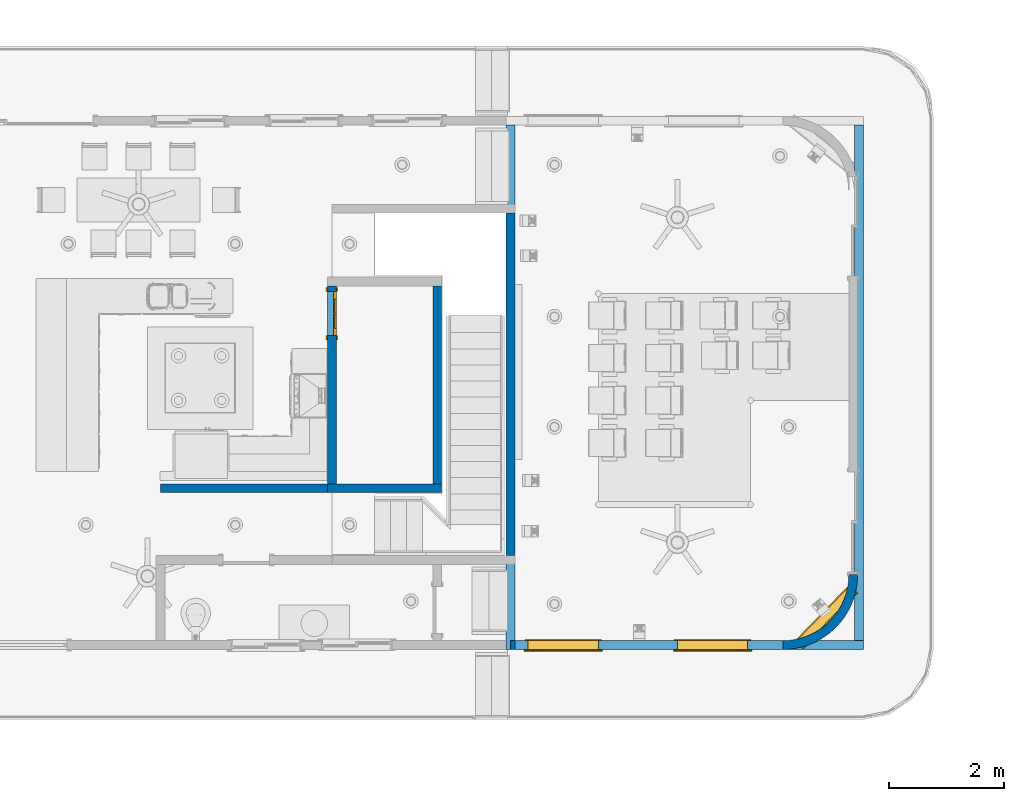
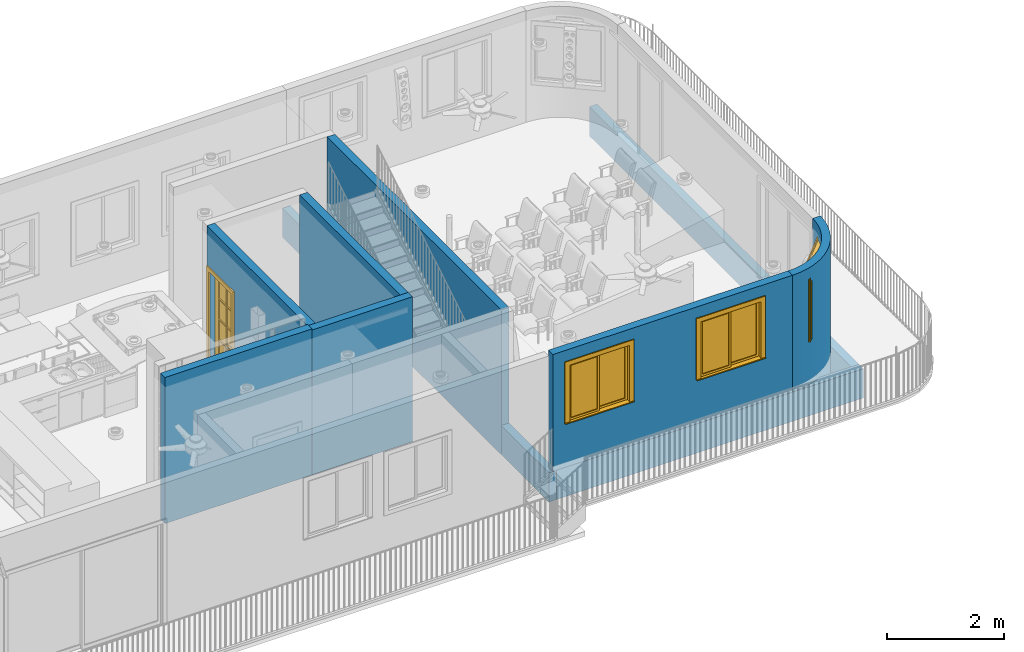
# One storey, part 3 of 21: 10 walls, 3 windows, 1 door, 4 openings.
"""IFC2X3 building model written with IfcOpenShell, lengths in feet."""

import ifcopenshell
import ifcopenshell.guid

model = None  # the IFC model being written
_history = None  # IfcOwnerHistory: only IFC2X3 demands one
_inside = {}  # id of a spatial element -> (the spatial element, [elements in it])
_under = {}  # id of a project, library or spatial element -> (it, [spatial elements below it])
_declared = {}  # id of a project -> (the project, [libraries it declares])
_typed = {}  # id of a type object -> (the type object, [elements of that type])
_made_of = {}  # id of a material, layer set ... -> (it, [elements and type objects made of it])


def new_model(schema):
    """Start an empty IFC model of exactly this schema.

    Asked for "IFC4X3", IfcOpenShell would pick the latest addendum, in which some entities
    have other attributes; the version numbers below select the first issue.
    IFC2X3 requires an IfcOwnerHistory on every rooted entity: one is made here for all.
    """
    global model, _history
    if schema == "IFC4X3":
        model = ifcopenshell.file(schema_version=(4, 3, 0, 0))
    else:
        model = ifcopenshell.file(schema=schema)
    _inside.clear()
    _under.clear()
    _declared.clear()
    _typed.clear()
    _made_of.clear()
    _history = None
    if model.schema == "IFC2X3":
        org = make("IfcOrganization", Name="unknown")
        user = make(
            "IfcPersonAndOrganization",
            ThePerson=make("IfcPerson", FamilyName="unknown"),
            TheOrganization=org,
        )
        app = make(
            "IfcApplication",
            ApplicationDeveloper=org,
            Version="unknown",
            ApplicationFullName="unknown",
            ApplicationIdentifier="unknown",
        )
        _history = make(
            "IfcOwnerHistory",
            OwningUser=user,
            OwningApplication=app,
            ChangeAction="ADDED",
            CreationDate=0,
        )
    return model


def make(cls, **values):
    """One entity of the class cls with the attributes given. An attribute that is None is left unset."""
    return model.create_entity(
        cls, **{name: value for name, value in values.items() if value is not None}
    )


def entity(cls, *values):
    """Any entity or typed value of the class cls, its attributes in the order of the schema. None: left unset."""
    e = model.create_entity(cls)
    for i, value in enumerate(values):
        if value is not None:
            e[i] = value
    return e


def rooted(cls, **values):
    """An entity with a GlobalId (a new one), such as an element, a storey or a relation."""
    return make(cls, GlobalId=ifcopenshell.guid.new(), OwnerHistory=_history, **values)


def si_unit(unit_type, name, prefix=None):
    """IfcSIUnit, for example si_unit("LENGTHUNIT", "METRE", prefix="MILLI")."""
    return make("IfcSIUnit", UnitType=unit_type, Prefix=prefix, Name=name)


def converted_unit(unit_type, name, factor, base, dimensions=None, offset=None):
    """IfcConversionBasedUnit, such as the inch: factor (a typed value) times the base unit."""
    return make(
        "IfcConversionBasedUnit"
        if offset is None
        else "IfcConversionBasedUnitWithOffset",
        ConversionOffset=offset,
        Dimensions=None
        if dimensions is None
        else entity("IfcDimensionalExponents", *dimensions),
        UnitType=unit_type,
        Name=name,
        ConversionFactor=make(
            "IfcMeasureWithUnit", ValueComponent=factor, UnitComponent=base
        ),
    )


def derived_unit(unit_type, elements):
    """IfcDerivedUnit: a product of units, each with its exponent."""
    return make(
        "IfcDerivedUnit",
        Elements=[
            make("IfcDerivedUnitElement", Unit=unit, Exponent=power)
            for unit, power in elements
        ],
        UnitType=unit_type,
    )


def assignment(units):
    """IfcUnitAssignment: the units of a project."""
    return None if units is None else make("IfcUnitAssignment", Units=units)


def point(xyz):
    """IfcCartesianPoint."""
    return None if xyz is None else make("IfcCartesianPoint", Coordinates=xyz)


def direction(xyz):
    """IfcDirection."""
    return None if xyz is None else make("IfcDirection", DirectionRatios=xyz)


def frame(location, z_axis=None, x_axis=None):
    """IfcAxis2Placement3D, a coordinate frame: its origin and axes. An axis left out is left unset."""
    return make(
        "IfcAxis2Placement3D",
        Location=point(location),
        Axis=direction(z_axis),
        RefDirection=direction(x_axis),
    )


def frame_2d(location, x_axis=None):
    """IfcAxis2Placement2D, a coordinate frame in the plane: its origin and x axis."""
    return make(
        "IfcAxis2Placement2D", Location=point(location), RefDirection=direction(x_axis)
    )


def origin():
    """The frame at (0, 0, 0) with its axes left unset."""
    return frame((0.0, 0.0, 0.0))


def origin_2d_with_axis():
    """The frame at (0, 0) in the plane with the x axis (1, 0) written out."""
    return frame_2d((0.0, 0.0), x_axis=(1.0, 0.0))


def place(relative_to, where):
    """IfcLocalPlacement: puts the frame where relative to a parent placement (None: the world)."""
    return make(
        "IfcLocalPlacement", PlacementRelTo=relative_to, RelativePlacement=where
    )


def context(
    kind, dimensions, precision=None, world=None, true_north=None, identifier=None
):
    """IfcGeometricRepresentationContext, for example the 3D "Model" context."""
    return make(
        "IfcGeometricRepresentationContext",
        ContextIdentifier=identifier,
        ContextType=kind,
        CoordinateSpaceDimension=dimensions,
        Precision=precision,
        WorldCoordinateSystem=world,
        TrueNorth=true_north,
    )


def subcontext(parent, identifier, kind, view, scale=None):
    """IfcGeometricRepresentationSubContext, for example "Body" below "Model"."""
    return make(
        "IfcGeometricRepresentationSubContext",
        ContextIdentifier=identifier,
        ContextType=kind,
        ParentContext=parent,
        TargetScale=scale,
        TargetView=view,
    )


def project(units=None, contexts=None):
    """IfcProject with its units and contexts."""
    return rooted(
        "IfcProject",
        Name="project",
        RepresentationContexts=contexts,
        UnitsInContext=assignment(units),
    )


def spatial(cls, under=None, at=None, **own):
    """A site, building, storey or space (cls), placed at a placement, below another one or the project."""
    s = rooted(cls, ObjectPlacement=at, **own)
    if under is not None:
        _under.setdefault(under.id(), (under, []))[1].append(s)
    return s


def polyline(points):
    """IfcPolyline through the points."""
    return make("IfcPolyline", Points=[point(p) for p in points])


def circle_curve(where, radius):
    """IfcCircle in the frame where."""
    return make("IfcCircle", Position=where, Radius=radius)


def parameter(value):
    """IfcParameterValue: where a trimmed curve begins or ends, as a parameter of its basis curve."""
    return model.create_entity("IfcParameterValue", value)


def trimmed(basis, trim1, trim2, sense, master):
    """IfcTrimmedCurve: the piece of a basis curve between two trims."""
    return make(
        "IfcTrimmedCurve",
        BasisCurve=basis,
        Trim1=trim1,
        Trim2=trim2,
        SenseAgreement=sense,
        MasterRepresentation=master,
    )


def segment(curve, same_sense, transition):
    """IfcCompositeCurveSegment."""
    return make(
        "IfcCompositeCurveSegment",
        Transition=transition,
        SameSense=same_sense,
        ParentCurve=curve,
    )


def composite_curve(segments, self_intersect=None):
    """IfcCompositeCurve: segments joined end to end."""
    return make("IfcCompositeCurve", Segments=segments, SelfIntersect=self_intersect)


def profile(cls, at=None, kind="AREA", **sizes):
    """A parametric profile (cls). Its sizes go by their IFC names, for example OverallWidth=200.0."""
    return make(cls, ProfileType=kind, Position=at, **sizes)


def rectangle(**sizes):
    """IfcRectangleProfileDef."""
    return profile("IfcRectangleProfileDef", **sizes)


def outline(outer, holes=None, kind="AREA"):
    """IfcArbitraryClosedProfileDef: a profile drawn as a closed curve; with holes, ...WithVoids."""
    if holes is None:
        return make("IfcArbitraryClosedProfileDef", ProfileType=kind, OuterCurve=outer)
    return make(
        "IfcArbitraryProfileDefWithVoids",
        ProfileType=kind,
        OuterCurve=outer,
        InnerCurves=holes,
    )


def extrude(swept, where, along, depth):
    """IfcExtrudedAreaSolid: the profile swept, set in the frame where, extruded along a direction by depth."""
    return make(
        "IfcExtrudedAreaSolid",
        SweptArea=swept,
        Position=where,
        ExtrudedDirection=direction(along),
        Depth=depth,
    )


def clip(a, b, op="DIFFERENCE"):
    """IfcBooleanClippingResult: the solid a cut by the half space b."""
    return make(
        "IfcBooleanClippingResult", Operator=op, FirstOperand=a, SecondOperand=b
    )


def halfspace(plane, agree):
    """IfcHalfSpaceSolid: all space on one side of the plane z = 0 of the frame plane."""
    return make(
        "IfcHalfSpaceSolid",
        BaseSurface=make("IfcPlane", Position=plane),
        AgreementFlag=agree,
    )


def bounded_halfspace(plane, agree, where, boundary):
    """IfcPolygonalBoundedHalfSpace: a half space limited to a polygon's prism."""
    return make(
        "IfcPolygonalBoundedHalfSpace",
        BaseSurface=make("IfcPlane", Position=plane),
        AgreementFlag=agree,
        Position=where,
        PolygonalBoundary=boundary,
    )


def shape(context_of_items, identifier, shape_type, items):
    """IfcShapeRepresentation: the items that make up one representation, for example the "Body"."""
    return make(
        "IfcShapeRepresentation",
        ContextOfItems=context_of_items,
        RepresentationIdentifier=identifier,
        RepresentationType=shape_type,
        Items=items,
    )


def source(mapping_origin, context_of_items, identifier, shape_type, items):
    """IfcRepresentationMap: a shape defined once, which mapped items show again and again."""
    return make(
        "IfcRepresentationMap",
        MappingOrigin=mapping_origin,
        MappedRepresentation=shape(context_of_items, identifier, shape_type, items),
    )


def transform(
    local_origin,
    x_axis=None,
    y_axis=None,
    z_axis=None,
    scale=None,
    scale2=None,
    scale3=None,
    uniform=True,
):
    """IfcCartesianTransformationOperator3D, or its non-uniform kind. x_axis, y_axis, z_axis: its Axis1, 2, 3."""
    if uniform:
        return make(
            "IfcCartesianTransformationOperator3D",
            Axis1=direction(x_axis),
            Axis2=direction(y_axis),
            LocalOrigin=point(local_origin),
            Scale=scale,
            Axis3=direction(z_axis),
        )
    return make(
        "IfcCartesianTransformationOperator3DnonUniform",
        Axis1=direction(x_axis),
        Axis2=direction(y_axis),
        LocalOrigin=point(local_origin),
        Scale=scale,
        Axis3=direction(z_axis),
        Scale2=scale2,
        Scale3=scale3,
    )


def mapped(mapping_source, mapping_target):
    """IfcMappedItem: shows the shape of a source again, moved by a transform."""
    return make(
        "IfcMappedItem", MappingSource=mapping_source, MappingTarget=mapping_target
    )


def material(Name=None, Category=None):
    """IfcMaterial."""
    return make("IfcMaterial", Name=Name, Category=Category)


def material_list(materials):
    """IfcMaterialList."""
    return make("IfcMaterialList", Materials=materials)


def layer(
    of_material, thickness, ventilated=None, Name=None, Category=None, Priority=None
):
    """IfcMaterialLayer: one layer of a wall or slab, of a material (None: an air gap)."""
    return make(
        "IfcMaterialLayer",
        Material=of_material,
        LayerThickness=thickness,
        IsVentilated=ventilated,
        Name=Name,
        Category=Category,
        Priority=Priority,
    )


def layer_set(layers, Name=None):
    """IfcMaterialLayerSet."""
    return make("IfcMaterialLayerSet", MaterialLayers=layers, LayerSetName=Name)


def layer_usage(for_layer_set, set_direction, sense, offset, extent=None):
    """IfcMaterialLayerSetUsage: how a layer set lies in its element."""
    return make(
        "IfcMaterialLayerSetUsage",
        ForLayerSet=for_layer_set,
        LayerSetDirection=set_direction,
        DirectionSense=sense,
        OffsetFromReferenceLine=offset,
        ReferenceExtent=extent,
    )


def made_of(thing, what):
    """Note that an element or type object is made of a material, layer set ...; save() writes the relation."""
    if what is not None:
        _made_of.setdefault(what.id(), (what, []))[1].append(thing)
    return thing


def type_object(cls, material=None, **own):
    """A type object (cls), such as IfcWallType, which elements share."""
    return made_of(rooted(cls, **own), material)


def type_shapes(of_type, sources):
    """Give a type object the sources (RepresentationMaps) that its elements show as mapped items."""
    of_type.RepresentationMaps = sources


def element(
    cls,
    number,
    at=None,
    inside=None,
    cuts=None,
    type_object=None,
    material=None,
    context=None,
    identifier="Body",
    shape_type=None,
    held_by="IfcProductDefinitionShape",
    body=None,
    shapes=None,
    **own,
):
    """One element of the class cls, such as IfcWall. Its Tag is "e" and its number.

    at: its placement. inside: the storey or other place that contains it. cuts: it is an
    opening in that element (IfcRelVoidsElement). A single representation is given by context,
    identifier, shape_type and body (its items); several are given by shapes. held_by: the class
    of the entity that holds the representations. save() writes the other relations.
    """
    e = rooted(cls, Tag="e%d" % number, ObjectPlacement=at, **own)
    if body is not None:
        shapes = [shape(context, identifier, shape_type, body)]
    if shapes is not None:
        e.Representation = make(held_by, Representations=shapes)
    if inside is not None:
        _inside.setdefault(inside.id(), (inside, []))[1].append(e)
    if cuts is not None:
        rooted(
            "IfcRelVoidsElement", RelatingBuildingElement=cuts, RelatedOpeningElement=e
        )
    if type_object is not None:
        _typed.setdefault(type_object.id(), (type_object, []))[1].append(e)
    return made_of(e, material)


def fill(opening, filler):
    """IfcRelFillsElement: the door or window that sits in an opening."""
    return rooted(
        "IfcRelFillsElement",
        RelatingOpeningElement=opening,
        RelatedBuildingElement=filler,
    )


def aggregate(whole, parts):
    """IfcRelAggregates: a whole, such as a stair, and the parts it consists of."""
    return rooted("IfcRelAggregates", RelatingObject=whole, RelatedObjects=parts)


def save(model, path):
    """Write the relations noted so far, then the file.

    IfcRelAggregates (storeys below a building ...), IfcRelContainedInSpatialStructure (elements
    in a storey), IfcRelDefinesByType, IfcRelAssociatesMaterial and IfcRelDeclares: one each for
    every whole, place, type object, material and project.
    """
    for whole, parts in _under.values():
        aggregate(whole, parts)
    for where, things in _inside.values():
        rooted(
            "IfcRelContainedInSpatialStructure",
            RelatedElements=things,
            RelatingStructure=where,
        )
    for kind, things in _typed.values():
        rooted("IfcRelDefinesByType", RelatedObjects=things, RelatingType=kind)
    for what, things in _made_of.values():
        rooted("IfcRelAssociatesMaterial", RelatedObjects=things, RelatingMaterial=what)
    for by, libraries in _declared.values():
        rooted("IfcRelDeclares", RelatingContext=by, RelatedDefinitions=libraries)
    model.write(path)


model = new_model("IFC2X3")

# Units and contexts
model_context = context("Model", 3, precision=0.0001, world=origin(), true_north=direction((6.12303176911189e-17, 1.0)))
body_context = subcontext(model_context, "Body", "Model", "MODEL_VIEW")
ifc_project = project(units=[converted_unit("LENGTHUNIT", "FOOT", entity("IfcRatioMeasure", 0.3048), si_unit("LENGTHUNIT", "METRE"), dimensions=[1, 0, 0, 0, 0, 0, 0]), converted_unit("AREAUNIT", "SQUARE FOOT", entity("IfcRatioMeasure", 0.09290304), si_unit("AREAUNIT", "SQUARE_METRE"), dimensions=[2, 0, 0, 0, 0, 0, 0]), converted_unit("VOLUMEUNIT", "CUBIC FOOT", entity("IfcRatioMeasure", 0.028316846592), si_unit("VOLUMEUNIT", "CUBIC_METRE"), dimensions=[3, 0, 0, 0, 0, 0, 0]), converted_unit("PLANEANGLEUNIT", "DEGREE", entity("IfcRatioMeasure", 0.0174532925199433), si_unit("PLANEANGLEUNIT", "RADIAN"), dimensions=[0, 0, 0, 0, 0, 0, 0]), si_unit("MASSUNIT", "GRAM", prefix="KILO"), derived_unit("MASSDENSITYUNIT", [(si_unit("MASSUNIT", "GRAM", prefix="KILO"), 1), (si_unit("LENGTHUNIT", "METRE"), -3)]), si_unit("TIMEUNIT", "SECOND"), si_unit("FREQUENCYUNIT", "HERTZ"), si_unit("THERMODYNAMICTEMPERATUREUNIT", "DEGREE_CELSIUS"), derived_unit("THERMALTRANSMITTANCEUNIT", [(si_unit("MASSUNIT", "GRAM", prefix="KILO"), 1), (si_unit("THERMODYNAMICTEMPERATUREUNIT", "KELVIN"), -1), (si_unit("TIMEUNIT", "SECOND"), -3)]), derived_unit("VOLUMETRICFLOWRATEUNIT", [(si_unit("LENGTHUNIT", "METRE"), 3), (si_unit("TIMEUNIT", "SECOND"), -1)]), si_unit("ELECTRICCURRENTUNIT", "AMPERE"), si_unit("ELECTRICVOLTAGEUNIT", "VOLT"), si_unit("POWERUNIT", "WATT"), si_unit("FORCEUNIT", "NEWTON"), si_unit("ILLUMINANCEUNIT", "LUX"), si_unit("LUMINOUSFLUXUNIT", "LUMEN"), si_unit("LUMINOUSINTENSITYUNIT", "CANDELA"), derived_unit("USERDEFINED", [(si_unit("MASSUNIT", "GRAM", prefix="KILO"), -1), (si_unit("LENGTHUNIT", "METRE"), -2), (si_unit("TIMEUNIT", "SECOND"), 3), (si_unit("LUMINOUSFLUXUNIT", "LUMEN"), 1)]), derived_unit("LINEARVELOCITYUNIT", [(si_unit("LENGTHUNIT", "METRE"), 1), (si_unit("TIMEUNIT", "SECOND"), -1)]), si_unit("PRESSUREUNIT", "PASCAL"), derived_unit("USERDEFINED", [(si_unit("LENGTHUNIT", "METRE"), -2), (si_unit("MASSUNIT", "GRAM", prefix="KILO"), 1), (si_unit("TIMEUNIT", "SECOND"), -2)])], contexts=[model_context])

# Site, building, storey
site_placement = place(None, origin())
site = spatial("IfcSite", under=ifc_project, at=site_placement, Name="表面", CompositionType="ELEMENT")
building_placement = place(site_placement, origin())
building = spatial("IfcBuilding", under=site, at=building_placement, CompositionType="ELEMENT")
storey_placement = place(building_placement, origin())
storey = spatial("IfcBuildingStorey", under=building, at=storey_placement, Name="Level 1", CompositionType="ELEMENT", Elevation=0.0)

# Walls
ifc_material_1 = material(Name="Paint")
ifc_layer_1 = layer(ifc_material_1, 0.333333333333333)
ifc_material_2 = material(Name="Paints and Coatings")
ifc_layer_2 = layer(ifc_material_2, 0.166666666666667)
ifc_layer_set = layer_set([ifc_layer_1, ifc_layer_2], Name="基本墙:Generic - 4\" Brick")
ifc_layer_usage_1 = layer_usage(ifc_layer_set, "AXIS2", "NEGATIVE", 0.25)
wall_type = type_object("IfcWallType", Name="基本墙:Generic - 4\" Brick", PredefinedType="STANDARD", material=ifc_layer_set)
wall_1_placement = place(storey_placement, frame((15.9650869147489, 16.4323936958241, 0.0), z_axis=(0.0, 0.0, 1.0), x_axis=(0.0, -1.0, 0.0)))
element("IfcWallStandardCase", 1, at=wall_1_placement, inside=storey, type_object=wall_type, material=ifc_layer_usage_1, Name="基本墙:Generic - 4\" Brick", ObjectType="基本墙:Generic - 4\" Brick:257", context=body_context, shape_type="SweptSolid", body=[
    extrude(rectangle(XDim=29.8333333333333, YDim=0.499999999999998, at=frame_2d((14.9166666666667, -8.88178419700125e-16), x_axis=(-1.0, 0.0))), origin(), (0.0, 0.0, 1.0), 2.0),
])
ifc_layer_usage_2 = layer_usage(ifc_layer_set, "AXIS2", "NEGATIVE", 0.25)
wall_2_placement = place(storey_placement, frame((16.2150869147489, -13.1509396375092, 0.0)))
element("IfcWallStandardCase", 2, at=wall_2_placement, inside=storey, type_object=wall_type, material=ifc_layer_usage_2, Name="基本墙:Generic - 4\" Brick", ObjectType="基本墙:Generic - 4\" Brick:257", context=body_context, shape_type="SweptSolid", body=[
    extrude(rectangle(XDim=19.8333333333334, YDim=0.5, at=frame_2d((9.91666666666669, 0.0), x_axis=(-1.0, 0.0))), origin(), (0.0, 0.0, 1.0), 2.0),
])
ifc_layer_usage_3 = layer_usage(ifc_layer_set, "AXIS2", "NEGATIVE", 0.25)
wall_3_placement = place(storey_placement, frame((35.7984202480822, -12.9009396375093, 0.0), z_axis=(0.0, 0.0, 1.0), x_axis=(0.0, 1.0, 0.0)))
element("IfcWallStandardCase", 3, at=wall_3_placement, inside=storey, type_object=wall_type, material=ifc_layer_usage_3, Name="基本墙:Generic - 4\" Brick", ObjectType="基本墙:Generic - 4\" Brick:257", context=body_context, shape_type="SweptSolid", body=[
    extrude(rectangle(XDim=29.3333333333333, YDim=0.5, at=frame_2d((14.6666666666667, -4.16333634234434e-16), x_axis=(-1.0, 0.0))), origin(), (0.0, 0.0, 1.0), 2.0),
])
ifc_layer_usage_4 = layer_usage(ifc_layer_set, "AXIS2", "NEGATIVE", 0.25)
wall_4_placement = place(storey_placement, frame((15.9650869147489, 11.4323936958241, 0.0), z_axis=(0.0, 0.0, 1.0), x_axis=(0.0, -1.0, 0.0)))
element("IfcWallStandardCase", 4, at=wall_4_placement, inside=storey, type_object=wall_type, material=ifc_layer_usage_4, Name="基本墙:Generic - 4\" Brick", ObjectType="基本墙:Generic - 4\" Brick:257", context=body_context, shape_type="Clipping", body=[
    clip(extrude(rectangle(XDim=19.5, YDim=0.5, at=frame_2d((9.75, 5.82867087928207e-16), x_axis=(-1.0, 0.0))), origin(), (0.0, 0.0, 1.0), 9.90624999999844), bounded_halfspace(frame((0.0, -0.250000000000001, 9.90624999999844), z_axis=(0.0, 0.0, -1.0), x_axis=(1.0, 0.0, 0.0)), True, frame((0.0, -0.250000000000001, 9.90624999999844)), polyline([(0.0, 0.0), (19.5, 0.0), (19.5, 0.500000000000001), (0.0, 0.500000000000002), (0.0, 0.0)]))),
])

# Wall, opening, door
ifc_layer_usage_5 = layer_usage(ifc_layer_set, "AXIS2", "NEGATIVE", 0.25)
wall_5_placement = place(storey_placement, frame((5.79842024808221, -3.98427297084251, 0.0), z_axis=(0.0, 0.0, 1.0), x_axis=(0.0, 1.0, 0.0)))
wall_5 = element("IfcWallStandardCase", 5, at=wall_5_placement, inside=storey, type_object=wall_type, material=ifc_layer_usage_5, Name="基本墙:Generic - 4\" Brick", ObjectType="基本墙:Generic - 4\" Brick:257", context=body_context, shape_type="Clipping", body=[
    clip(clip(extrude(rectangle(XDim=11.2747125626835, YDim=0.5, at=frame_2d((5.63735628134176, 1.38777878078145e-16), x_axis=(-1.0, 0.0))), origin(), (0.0, 0.0, 1.0), 9.90624999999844), bounded_halfspace(frame((0.0, -0.25, 9.90624999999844), z_axis=(0.0, 0.0, -1.0), x_axis=(-1.0, 0.0, 0.0)), True, frame((0.0, -0.25, 9.90624999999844)), polyline([(0.0, 0.0), (11.2747125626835, 0.0), (11.2747125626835, 0.250000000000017), (10.9166666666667, 0.250000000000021), (10.6666666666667, 0.250000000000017), (0.75, 0.249999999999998), (0.41666666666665, 0.249999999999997), (0.0, 0.25), (0.0, 0.0)]))), bounded_halfspace(frame((11.2747125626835, 0.0, 9.90624999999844), z_axis=(0.0, 0.0, -1.0), x_axis=(-1.0, 0.0, 0.0)), True, frame((11.2747125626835, 0.0, 9.90624999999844)), polyline([(0.0, 0.0), (0.0, 0.250000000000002), (-11.2747125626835, 0.250000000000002), (-11.2747125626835, 0.0), (-10.8580458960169, 0.0), (-10.5247125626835, 0.0), (-0.608045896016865, 0.0), (-0.358045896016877, 0.0), (0.0, 0.0)]))),
])
opening_1_placement = place(wall_5_placement, frame((10.9413792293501, 0.249999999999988, 0.333333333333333)))
opening_1 = element("IfcOpeningElement", 6, at=opening_1_placement, cuts=wall_5, Name="Single-Glass 2:30\" x 80\":1", ObjectType="Opening", context=body_context, shape_type="SweptSolid", body=[
    extrude(rectangle(XDim=2.5, YDim=6.66666666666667, at=frame_2d((3.33333333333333, 1.25), x_axis=(0.0, -1.0))), frame((0.0, 0.0, 0.0), z_axis=(0.0, -1.0, 0.0), x_axis=(0.0, 0.0, 1.0)), (0.0, 0.0, 1.0), 0.5),
])
ifc_material_3 = material(Name="Door - Frame")
ifc_material_4 = material(Name="Door - Panel")
ifc_material_5 = material(Name="Glass")
ifc_material_list_1 = material_list([ifc_material_3, ifc_material_4, ifc_material_5])
ifc_material_list_2 = material_list([ifc_material_3, ifc_material_4, ifc_material_5])
door_style = type_object("IfcDoorStyle", Name="30\" x 80\"", ConstructionType="NOTDEFINED", OperationType="SINGLE_SWING_LEFT", ParameterTakesPrecedence=False, Sizeable=False, material=ifc_material_list_2)
shared_shape_1 = source(origin(), body_context, "Body", "SweptSolid", [
    extrude(outline(polyline([(-3.52083333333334, -1.49999999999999), (3.39583333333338, -1.49999999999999), (3.39583333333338, -1.24999999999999), (-3.27083333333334, -1.24999999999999), (-3.27083333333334, 1.24999999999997), (3.39583333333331, 1.24999999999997), (3.39583333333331, 1.50000000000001), (-3.52083333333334, 1.50000000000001), (-3.52083333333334, -1.49999999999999)])), frame((1.08333333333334, 0.0, 3.39583333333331), z_axis=(0.0, -1.0, 0.0), x_axis=(0.0, 0.0, -1.0)), (0.0, 0.0, 1.0), 0.0833333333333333),
    extrude(outline(polyline([(-1.50000000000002, -3.52083333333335), (1.49999999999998, -3.52083333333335), (1.49999999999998, 3.39583333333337), (1.25000000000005, 3.39583333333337), (1.25000000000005, -3.2708333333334), (-1.25000000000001, -3.2708333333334), (-1.25000000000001, 3.39583333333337), (-1.50000000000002, 3.39583333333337), (-1.50000000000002, -3.52083333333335)])), frame((1.08333333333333, 0.58333333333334, 3.39583333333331), z_axis=(0.0, -1.0, 0.0), x_axis=(-1.0, 0.0, 0.0)), (0.0, 0.0, 1.0), 0.0833333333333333),
    extrude(outline(polyline([(-3.33333333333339, -1.25000000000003), (3.33333333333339, -1.25000000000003), (3.33333333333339, 1.25000000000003), (-3.33333333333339, 1.25000000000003), (-3.33333333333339, -1.25000000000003)]), holes=[polyline([(-2.75000000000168, 0.0416666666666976), (-2.75000000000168, 0.833333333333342), (-1.60416666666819, 0.833333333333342), (-1.60416666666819, 0.0416666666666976), (-2.75000000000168, 0.0416666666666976)]), polyline([(-2.7500000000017, -0.83333333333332), (-2.7500000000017, -0.0416666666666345), (-1.60416666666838, -0.0416666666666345), (-1.60416666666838, -0.83333333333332), (-2.7500000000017, -0.83333333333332)]), polyline([(-1.5208333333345, 0.0416666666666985), (-1.5208333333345, 0.833333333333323), (-0.208333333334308, 0.833333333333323), (-0.208333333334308, 0.0416666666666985), (-1.5208333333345, 0.0416666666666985)]), polyline([(-1.52083333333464, -0.833333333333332), (-1.52083333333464, -0.0416666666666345), (-0.208333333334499, -0.0416666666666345), (-0.208333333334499, -0.833333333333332), (-1.52083333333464, -0.833333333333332)]), polyline([(-0.12500000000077, 0.041666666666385), (-0.12500000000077, 0.833333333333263), (1.18749999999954, 0.833333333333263), (1.18749999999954, 0.041666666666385), (-0.12500000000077, 0.041666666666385)]), polyline([(-0.125000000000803, -0.833333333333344), (-0.125000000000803, -0.0416666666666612), (1.18749999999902, -0.0416666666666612), (1.18749999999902, -0.833333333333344), (-0.125000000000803, -0.833333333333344)]), polyline([(1.27083333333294, 0.041666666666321), (1.27083333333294, 0.833333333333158), (2.58333333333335, 0.833333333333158), (2.58333333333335, 0.041666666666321), (1.27083333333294, 0.041666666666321)]), polyline([(1.27083333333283, -0.833333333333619), (1.27083333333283, -0.0416666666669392), (2.58333333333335, -0.0416666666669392), (2.58333333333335, -0.833333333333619), (1.27083333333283, -0.833333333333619)])]), frame((1.08333333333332, 0.500000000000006, 3.33333333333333), z_axis=(0.0, -1.0, 0.0), x_axis=(0.0, 0.0, -1.0)), (0.0, 0.0, 1.0), 0.166666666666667),
    extrude(rectangle(XDim=0.791666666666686, YDim=0.041666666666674, at=origin_2d_with_axis()), frame((0.645833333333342, 0.416666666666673, 4.93750000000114)), (0.0, 0.0, 1.0), 1.14583333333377),
    extrude(rectangle(XDim=0.791666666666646, YDim=0.041666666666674, at=origin_2d_with_axis()), frame((1.52083333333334, 0.416666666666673, 4.93750000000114)), (0.0, 0.0, 1.0), 1.14583333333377),
    extrude(rectangle(XDim=0.791666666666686, YDim=0.041666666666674, at=origin_2d_with_axis()), frame((0.645833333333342, 0.416666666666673, 3.54166666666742)), (0.0, 0.0, 1.0), 1.3125000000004),
    extrude(rectangle(XDim=0.791666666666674, YDim=0.041666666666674, at=origin_2d_with_axis()), frame((1.52083333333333, 0.416666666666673, 3.54166666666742)), (0.0, 0.0, 1.0), 1.3125000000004),
    extrude(rectangle(XDim=0.791666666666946, YDim=0.041666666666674, at=origin_2d_with_axis()), frame((1.52083333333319, 0.416666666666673, 2.14583333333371)), (0.0, 0.0, 1.0), 1.31250000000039),
    extrude(rectangle(XDim=0.791666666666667, YDim=0.041666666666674, at=origin_2d_with_axis()), frame((0.645833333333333, 0.416666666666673, 2.14583333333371)), (0.0, 0.0, 1.0), 1.31250000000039),
    extrude(rectangle(XDim=0.791666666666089, YDim=0.041666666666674, at=origin_2d_with_axis()), frame((0.645833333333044, 0.416666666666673, 0.749999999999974)), (0.0, 0.0, 1.0), 1.31250000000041),
    extrude(rectangle(XDim=0.79166666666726, YDim=0.041666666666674, at=origin_2d_with_axis()), frame((1.52083333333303, 0.416666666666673, 0.749999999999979)), (0.0, 0.0, 1.0), 1.3125000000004),
])
type_shapes(door_style, [shared_shape_1])
door_placement = place(opening_1_placement, frame((-0.166666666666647, 0.0, 0.0), z_axis=(0.0, 0.0, 1.0), x_axis=(-1.0, 0.0, 0.0)))
door = element("IfcDoor", 7, at=door_placement, inside=storey, type_object=door_style, material=ifc_material_list_1, Name="Single-Glass 2:30\" x 80\"", ObjectType="30\" x 80\"", OverallHeight=6.66666666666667, OverallWidth=2.5, context=body_context, shape_type="MappedRepresentation", body=[
    mapped(shared_shape_1, transform((0.0, 0.0, 0.0), scale=1.0)),
])
fill(opening_1, door)

# Walls
ifc_layer_usage_6 = layer_usage(ifc_layer_set, "AXIS2", "NEGATIVE", 0.25)
wall_6_placement = place(storey_placement, frame((5.5484202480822, -4.23427297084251, 0.0)))
element("IfcWallStandardCase", 8, at=wall_6_placement, inside=storey, type_object=wall_type, material=ifc_layer_usage_6, Name="基本墙:Generic - 4\" Brick", ObjectType="基本墙:Generic - 4\" Brick:257", context=body_context, shape_type="Clipping", body=[
    clip(clip(extrude(rectangle(XDim=6.50000000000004, YDim=0.5, at=frame_2d((3.25000000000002, -6.93889390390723e-17), x_axis=(-1.0, 0.0))), origin(), (0.0, 0.0, 1.0), 9.90624999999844), bounded_halfspace(frame((0.0, -0.25, 9.90624999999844), z_axis=(0.0, 0.0, -1.0), x_axis=(0.0, -1.0, 0.0)), True, frame((0.0, -0.25, 9.90624999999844)), polyline([(0.0, 0.0), (0.250000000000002, 0.0), (0.249999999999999, 0.499999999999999), (0.0, 0.5), (0.0, 0.0)]))), bounded_halfspace(frame((0.250000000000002, -0.25, 9.90624999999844), z_axis=(0.0, 0.0, -1.0), x_axis=(0.0, -1.0, 0.0)), True, frame((0.250000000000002, -0.25, 9.90624999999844)), polyline([(0.0, 0.0), (6.25000000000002, 0.0), (6.25000000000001, 0.5), (5.75000000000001, 0.5), (0.249999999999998, 0.5), (0.0, 0.5), (0.0, 0.0)]))),
])
ifc_layer_usage_7 = layer_usage(ifc_layer_set, "AXIS2", "NEGATIVE", 0.25)
wall_7_placement = place(storey_placement, frame((11.7984202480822, -3.98427297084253, 0.0), z_axis=(0.0, 0.0, 1.0), x_axis=(0.0, 1.0, 0.0)))
element("IfcWallStandardCase", 9, at=wall_7_placement, inside=storey, type_object=wall_type, material=ifc_layer_usage_7, Name="基本墙:Generic - 4\" Brick", ObjectType="基本墙:Generic - 4\" Brick:257", context=body_context, shape_type="Clipping", body=[
    clip(extrude(rectangle(XDim=11.2747125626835, YDim=0.5, at=frame_2d((5.63735628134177, -7.63278329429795e-16), x_axis=(-1.0, 0.0))), origin(), (0.0, 0.0, 1.0), 9.90624999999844), bounded_halfspace(frame((0.0, -0.249999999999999, 9.90624999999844), z_axis=(0.0, 0.0, -1.0), x_axis=(-1.0, 0.0, 0.0)), True, frame((0.0, -0.249999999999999, 9.90624999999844)), polyline([(0.0, 0.0), (0.416666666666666, 0.0), (10.9166666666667, 0.0), (11.2747125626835, 0.0), (11.2747125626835, 0.499999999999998), (0.0, 0.5), (0.0, 0.0)]))),
])
ifc_layer_usage_8 = layer_usage(ifc_layer_set, "AXIS2", "NEGATIVE", 0.25)
wall_8_placement = place(storey_placement, frame((5.54842024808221, -4.23427297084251, 0.0), z_axis=(0.0, 0.0, 1.0), x_axis=(-1.0, 0.0, 0.0)))
element("IfcWallStandardCase", 10, at=wall_8_placement, inside=storey, type_object=wall_type, material=ifc_layer_usage_8, Name="基本墙:Generic - 4\" Brick", ObjectType="基本墙:Generic - 4\" Brick:257", context=body_context, shape_type="Clipping", body=[
    clip(extrude(rectangle(XDim=9.5, YDim=0.5, at=frame_2d((4.75, 1.66533453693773e-16), x_axis=(-1.0, 0.0))), origin(), (0.0, 0.0, 1.0), 9.98958333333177), bounded_halfspace(frame((0.0, -0.25, 9.98958333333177), z_axis=(0.0, 0.0, -1.0), x_axis=(0.0, 1.0, 0.0)), True, frame((0.0, -0.25, 9.98958333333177)), polyline([(0.0, 0.0), (9.5, 0.0), (9.5, 0.5), (0.0, 0.5), (0.0, 0.0)]))),
])

# Wall, openings, windows
ifc_layer_usage_9 = layer_usage(ifc_layer_set, "AXIS2", "NEGATIVE", 0.25)
wall_9_placement = place(storey_placement, frame((31.4650869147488, -13.1509396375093, 1.98958333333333), z_axis=(0.0, 0.0, 1.0), x_axis=(-1.0, 0.0, 0.0)))
wall_9 = element("IfcWallStandardCase", 11, at=wall_9_placement, inside=storey, type_object=wall_type, material=ifc_layer_usage_9, Name="基本墙:Generic - 4\" Brick", ObjectType="基本墙:Generic - 4\" Brick:257", context=body_context, shape_type="Clipping", body=[
    clip(extrude(rectangle(XDim=15.5, YDim=0.5, at=frame_2d((7.74999999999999, -1.38777878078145e-16), x_axis=(-1.0, 0.0))), origin(), (0.0, 0.0, 1.0), 7.99999999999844), halfspace(frame((15.25, -0.249999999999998, 0.0), z_axis=(0.0, 0.0, -1.0), x_axis=(0.0, 1.0, 0.0)), False)),
])
opening_2_placement = place(wall_9_placement, frame((10.5, -0.250000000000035, 3.01041666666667)))
opening_2 = element("IfcOpeningElement", 12, at=opening_2_placement, cuts=wall_9, Name="Slider with Trim:48\" x 48\":1", ObjectType="Opening", context=body_context, shape_type="SweptSolid", body=[
    extrude(rectangle(XDim=3.99999999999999, YDim=3.99999999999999, at=frame_2d((2.0, 2.0), x_axis=(-1.0, 0.0))), frame((0.0, 0.0, 0.0), z_axis=(0.0, 1.0, 0.0), x_axis=(0.0, 0.0, 1.0)), (0.0, 0.0, 1.0), 0.5),
])
opening_3_placement = place(wall_9_placement, frame((2.0, -0.250000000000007, 3.01041666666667)))
opening_3 = element("IfcOpeningElement", 13, at=opening_3_placement, cuts=wall_9, Name="Slider with Trim:48\" x 48\":1", ObjectType="Opening", context=body_context, shape_type="SweptSolid", body=[
    extrude(rectangle(XDim=3.99999999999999, YDim=3.99999999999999, at=frame_2d((2.0, 2.0), x_axis=(-1.0, 0.0))), frame((0.0, 0.0, 0.0), z_axis=(0.0, 1.0, 0.0), x_axis=(0.0, 0.0, 1.0)), (0.0, 0.0, 1.0), 0.5),
])
ifc_material_6 = material(Name="Sash")
ifc_material_7 = material(Name="Trim")
ifc_material_list_3 = material_list([ifc_material_5, ifc_material_6, ifc_material_7])
ifc_material_list_4 = material_list([ifc_material_5, ifc_material_6, ifc_material_7])
window_style = type_object("IfcWindowStyle", Name="48\" x 48\"", ConstructionType="NOTDEFINED", OperationType="NOTDEFINED", ParameterTakesPrecedence=False, Sizeable=False, material=ifc_material_list_4)
shared_shape_2 = source(origin(), body_context, "Body", "SweptSolid", [
    extrude(rectangle(XDim=0.0416666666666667, YDim=1.71875000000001, at=origin_2d_with_axis()), frame((1.06770833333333, 0.21875, 0.208333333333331), z_axis=(0.0, 0.0, 1.0), x_axis=(0.0, -1.0, 0.0)), (0.0, 0.0, 1.0), 3.58333333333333),
    extrude(outline(polyline([(-1.00520833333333, -1.9375), (1.00520833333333, -1.9375), (1.00520833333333, 1.9375), (-1.00520833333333, 1.9375), (-1.00520833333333, -1.9375)]), holes=[polyline([(-0.859374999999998, -1.79166666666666), (-0.859374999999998, 1.79166666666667), (0.859374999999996, 1.79166666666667), (0.859374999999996, -1.79166666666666), (-0.859374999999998, -1.79166666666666)])]), frame((1.06770833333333, 0.145833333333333, 2.0), z_axis=(0.0, 1.0, 0.0), x_axis=(1.0, 0.0, 0.0)), (0.0, 0.0, 1.0), 0.145833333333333),
    extrude(rectangle(XDim=0.104166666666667, YDim=4.45833333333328, at=frame_2d((-2.77555756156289e-17, 0.0), x_axis=(1.0, 0.0))), frame((2.0, 0.552083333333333, 0.0), z_axis=(0.0, 0.0, 1.0), x_axis=(0.0, -1.0, 0.0)), (0.0, 0.0, 1.0), 0.0624999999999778),
    extrude(outline(polyline([(-1.86458333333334, 1.9375), (2.01041666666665, 1.9375), (2.01041666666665, 2.22916666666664), (-2.15624999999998, 2.22916666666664), (-2.15624999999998, -2.22916666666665), (2.01041666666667, -2.22916666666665), (2.01041666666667, -1.93749999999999), (-1.86458333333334, -1.93749999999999), (-1.86458333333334, 1.9375)])), frame((2.0, 0.5, 2.07291666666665), z_axis=(0.0, 1.0, 0.0), x_axis=(0.0, 0.0, -1.0)), (0.0, 0.0, 1.0), 0.0625),
    extrude(outline(polyline([(-2.18749999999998, -2.18749999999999), (2.18749999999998, -2.18749999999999), (2.18749999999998, 2.18749999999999), (-2.18749999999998, 2.18749999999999), (-2.18749999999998, -2.18749999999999)]), holes=[polyline([(-1.89583333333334, -1.89583333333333), (-1.89583333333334, 1.89583333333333), (1.89583333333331, 1.89583333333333), (1.89583333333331, -1.89583333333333), (-1.89583333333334, -1.89583333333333)])]), frame((2.0, -0.0625, 2.0), z_axis=(0.0, 1.0, 0.0), x_axis=(0.0, 0.0, -1.0)), (0.0, 0.0, 1.0), 0.0625),
    extrude(rectangle(XDim=0.0416666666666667, YDim=1.71874999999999, at=frame_2d((1.38777878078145e-17, 0.0), x_axis=(1.0, 0.0))), frame((2.93229166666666, 0.364583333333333, 0.208333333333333), z_axis=(0.0, 0.0, 1.0), x_axis=(0.0, 1.0, 0.0)), (0.0, 0.0, 1.0), 3.58333333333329),
    extrude(outline(polyline([(-1.00520833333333, -1.93749999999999), (1.00520833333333, -1.93749999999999), (1.00520833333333, 1.93749999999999), (-1.00520833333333, 1.93749999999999), (-1.00520833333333, -1.93749999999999)]), holes=[polyline([(-0.859374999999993, -1.79166666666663), (-0.859374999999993, 1.79166666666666), (0.859374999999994, 1.79166666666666), (0.859374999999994, -1.79166666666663), (-0.859374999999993, -1.79166666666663)])]), frame((2.93229166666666, 0.291666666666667, 2.0), z_axis=(0.0, 1.0, 0.0), x_axis=(1.0, 0.0, 0.0)), (0.0, 0.0, 1.0), 0.145833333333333),
    extrude(outline(polyline([(-2.0, -2.0), (2.0, -2.0), (2.0, 2.0), (-2.0, 2.0), (-2.0, -2.0)]), holes=[polyline([(-1.89583333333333, -1.89583333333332), (-1.89583333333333, 1.89583333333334), (1.89583333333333, 1.89583333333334), (1.89583333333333, -1.89583333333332), (-1.89583333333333, -1.89583333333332)])]), frame((2.0, 0.0, 2.0), z_axis=(0.0, 1.0, 0.0), x_axis=(1.0, 0.0, 0.0)), (0.0, 0.0, 1.0), 0.145833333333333),
    extrude(outline(polyline([(-2.0, -2.0), (2.0, -2.0), (2.0, 2.0), (-2.0, 2.0), (-2.0, -2.0)]), holes=[polyline([(-1.9375, -1.93749999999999), (-1.9375, 1.9375), (1.9375, 1.9375), (1.9375, -1.93749999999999), (-1.9375, -1.93749999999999)])]), frame((2.0, 0.145833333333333, 2.0), z_axis=(0.0, 1.0, 0.0), x_axis=(0.0, 0.0, -1.0)), (0.0, 0.0, 1.0), 0.354166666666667),
])
type_shapes(window_style, [shared_shape_2])
window_1_placement = place(opening_2_placement, origin())
window_1 = element("IfcWindow", 14, at=window_1_placement, inside=storey, type_object=window_style, material=ifc_material_list_3, Name="Slider with Trim:48\" x 48\"", ObjectType="48\" x 48\"", OverallHeight=3.99999999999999, OverallWidth=3.99999999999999, context=body_context, shape_type="MappedRepresentation", body=[
    mapped(shared_shape_2, transform((0.0, 0.0, 0.0), scale=1.0)),
])
fill(opening_2, window_1)
ifc_material_list_5 = material_list([ifc_material_5, ifc_material_6, ifc_material_7])
window_2_placement = place(opening_3_placement, origin())
window_2 = element("IfcWindow", 15, at=window_2_placement, inside=storey, type_object=window_style, material=ifc_material_list_5, Name="Slider with Trim:48\" x 48\"", ObjectType="48\" x 48\"", OverallHeight=3.99999999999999, OverallWidth=3.99999999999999, context=body_context, shape_type="MappedRepresentation", body=[
    mapped(shared_shape_2, transform((0.0, 0.0, 0.0), scale=1.0)),
])
fill(opening_3, window_2)

# Wall, opening, window
ifc_layer_usage_10 = layer_usage(ifc_layer_set, "AXIS2", "POSITIVE", -0.25)
wall_10_placement = place(storey_placement, frame((35.4650869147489, -9.15093963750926, 0.0)))
wall_10 = element("IfcWallStandardCase", 16, at=wall_10_placement, inside=storey, type_object=wall_type, material=ifc_layer_usage_10, Name="基本墙:Generic - 4\" Brick", ObjectType="基本墙:Generic - 4\" Brick:257", context=body_context, shape_type="Clipping", body=[
    clip(extrude(outline(composite_curve([segment(trimmed(circle_curve(frame_2d((-4.0, 0.0), x_axis=(1.0, 0.0)), 4.25), [parameter(269.999999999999)], [parameter(360.0)], True, "PARAMETER"), True, "CONTINUOUS"), segment(polyline([(0.25, 0.0), (-0.25, 0.0)]), True, "CONTINUOUS"), segment(trimmed(circle_curve(frame_2d((-4.0, 0.0), x_axis=(1.0, 0.0)), 3.75), [parameter(269.999999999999)], [parameter(360.0)], True, "PARAMETER"), False, "CONTINUOUS"), segment(polyline([(-4.0, -3.74999999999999), (-4.0, -4.24999999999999)]), True, "CONTINUOUS")], self_intersect=False)), origin(), (0.0, 0.0, 1.0), 9.98958333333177), bounded_halfspace(frame((-0.725690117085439, -2.7095008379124, 9.98958333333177), z_axis=(0.0, 0.0, -1.0), x_axis=(0.0, -1.0, 0.0)), True, frame((-0.725690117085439, -2.7095008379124, 9.98958333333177)), composite_curve([segment(trimmed(circle_curve(frame_2d((-3.27430988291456, 2.70950083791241), x_axis=(1.0, 0.0)), 4.25), [parameter(320.392145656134)], [parameter(359.999999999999)], True, "PARAMETER"), True, "CONTINUOUS"), segment(polyline([(0.975690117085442, 2.70950083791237), (0.475690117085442, 2.7095008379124)]), True, "CONTINUOUS"), segment(trimmed(circle_curve(frame_2d((-3.27430988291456, 2.70950083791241), x_axis=(1.0, 0.0)), 3.75), [parameter(274.38863113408)], [parameter(360.0)], True, "PARAMETER"), False, "CONTINUOUS"), segment(trimmed(circle_curve(frame_2d((-2.69112055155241, 2.95691380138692), x_axis=(-0.0741067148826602, -0.997250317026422)), 3.99740940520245), [parameter(0.0)], [parameter(4.25445732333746)], True, "PARAMETER"), True, "CONTINUOUS"), segment(polyline([(-2.69080245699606, -1.04049559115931), (-2.32252144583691, -1.02349311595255)]), True, "CONTINUOUS"), segment(polyline([(-2.32252144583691, -1.02349311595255), (-1.95723524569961, -0.972626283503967)]), True, "CONTINUOUS"), segment(polyline([(-1.95723524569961, -0.972626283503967), (-1.5981884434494, -0.88833155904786)]), True, "CONTINUOUS"), segment(polyline([(-1.5981884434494, -0.88833155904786), (-1.24843030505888, -0.771324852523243)]), True, "CONTINUOUS"), segment(polyline([(-1.24843030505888, -0.771324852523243), (-0.910931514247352, -0.622599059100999)]), True, "CONTINUOUS"), segment(polyline([(-0.910931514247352, -0.622599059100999), (-0.588559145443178, -0.443415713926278)]), True, "CONTINUOUS"), segment(polyline([(-0.588559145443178, -0.443415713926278), (-0.284058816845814, -0.235299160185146)]), True, "CONTINUOUS"), segment(polyline([(-0.284058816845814, -0.235299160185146), (0.0, 0.0)]), True, "CONTINUOUS")], self_intersect=False))),
])
opening_4_placement = place(wall_10_placement, frame((-3.20151706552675, 2.01190696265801, 5.0)))
opening_4 = element("IfcOpeningElement", 17, at=opening_4_placement, cuts=wall_10, Name="Slider with Trim:48\" x 48\":1", ObjectType="Opening", context=body_context, shape_type="SweptSolid", body=[
    extrude(rectangle(XDim=3.99999999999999, YDim=3.99999999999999, at=frame_2d((2.0, 2.0), x_axis=(-1.0, 0.0))), frame((0.0, 0.0, 0.0), z_axis=(0.717724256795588, -0.69632743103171, 0.0), x_axis=(0.0, 0.0, 1.0)), (0.0, 0.0, 1.0), 4.62701647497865),
])
ifc_material_list_6 = material_list([ifc_material_5, ifc_material_6, ifc_material_7])
window_3_placement = place(opening_4_placement, frame((2.87089689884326, -2.78530959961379, 0.0), z_axis=(0.0, 0.0, 1.0), x_axis=(-0.69632743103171, -0.717724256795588, 0.0)))
window_3 = element("IfcWindow", 18, at=window_3_placement, inside=storey, type_object=window_style, material=ifc_material_list_6, Name="Slider with Trim:48\" x 48\"", ObjectType="48\" x 48\"", OverallHeight=3.99999999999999, OverallWidth=4.0, context=body_context, shape_type="MappedRepresentation", body=[
    mapped(shared_shape_2, transform((0.0, 0.0, 0.0), scale=1.0)),
])
fill(opening_4, window_3)

save(model, "model.ifc")
